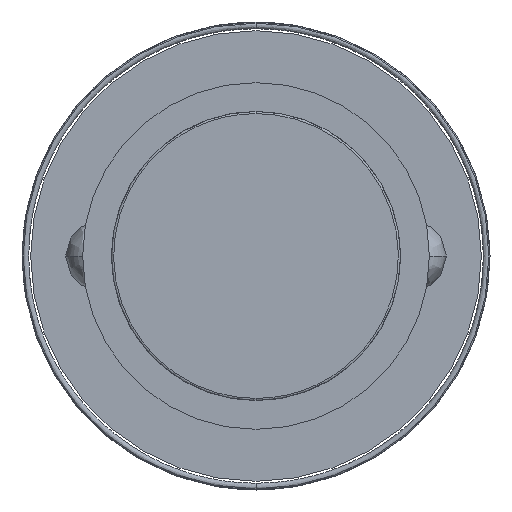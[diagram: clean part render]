
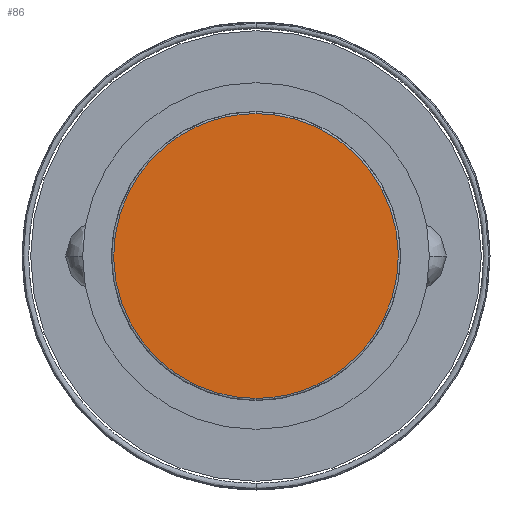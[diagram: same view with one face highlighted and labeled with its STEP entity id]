
A CAD part, front view. The second image highlights one B-rep face of the part: STEP entity #86.
In plain terms, the highlighted planar face has unit normal (0, -1, 0).
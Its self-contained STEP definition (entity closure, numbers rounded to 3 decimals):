
#18 = ORIENTED_EDGE ( 'NONE', *, *, #1232, .F. ) ;
#86 = ADVANCED_FACE ( 'N', ( #380 ), #1646, .F. ) ;
#131 = CARTESIAN_POINT ( 'NONE',  ( 246.4, 0., -123.2 ) ) ;
#329 = CARTESIAN_POINT ( 'NONE',  ( -123.2, 0., 0. ) ) ;
#380 = FACE_OUTER_BOUND ( 'NONE', #916, .T. ) ;
#466 = CARTESIAN_POINT ( 'NONE',  ( -246.4, 0., -123.2 ) ) ;
#818 = CARTESIAN_POINT ( 'NONE',  ( -246.4, 0., 123.2 ) ) ;
#838 = CARTESIAN_POINT ( 'NONE',  ( 0., 0., -123.2 ) ) ;
#863 = DIRECTION ( 'NONE',  ( 0., 1., 0. ) ) ;
#916 = EDGE_LOOP ( 'NONE', ( #1972, #18 ) ) ;
#1040 = AXIS2_PLACEMENT_3D ( 'NONE', #329, #863, #1578 ) ;
#1052 = VERTEX_POINT ( 'NONE', #1894 ) ;
#1088 =( BOUNDED_CURVE ( )  B_SPLINE_CURVE ( 3, ( #1734, #1749, #131, #1891 ),
 .UNSPECIFIED., .F., .T. ) 
 B_SPLINE_CURVE_WITH_KNOTS ( ( 4, 4 ),
 ( 0., 1. ),
 .UNSPECIFIED. ) 
 CURVE ( )  GEOMETRIC_REPRESENTATION_ITEM ( )  RATIONAL_B_SPLINE_CURVE ( ( 1., 0.333, 0.333, 1. ) ) 
 REPRESENTATION_ITEM ( '' )  );
#1206 = EDGE_CURVE ( 'NONE', #1052, #1874, #2187, .T. ) ;
#1232 = EDGE_CURVE ( 'NONE', #1874, #1052, #1088, .T. ) ;
#1554 = CARTESIAN_POINT ( 'NONE',  ( 0., 0., 123.2 ) ) ;
#1578 = DIRECTION ( 'NONE',  ( 0., 0., 1. ) ) ;
#1646 = PLANE ( 'NONE',  #1040 ) ;
#1734 = CARTESIAN_POINT ( 'NONE',  ( 0., 0., 123.2 ) ) ;
#1749 = CARTESIAN_POINT ( 'NONE',  ( 246.4, 0., 123.2 ) ) ;
#1874 = VERTEX_POINT ( 'NONE', #1982 ) ;
#1891 = CARTESIAN_POINT ( 'NONE',  ( 0., 0., -123.2 ) ) ;
#1894 = CARTESIAN_POINT ( 'NONE',  ( 0., 0., -123.2 ) ) ;
#1972 = ORIENTED_EDGE ( 'NONE', *, *, #1206, .F. ) ;
#1982 = CARTESIAN_POINT ( 'NONE',  ( 0., 0., 123.2 ) ) ;
#2187 =( BOUNDED_CURVE ( )  B_SPLINE_CURVE ( 3, ( #838, #466, #818, #1554 ),
 .UNSPECIFIED., .F., .T. ) 
 B_SPLINE_CURVE_WITH_KNOTS ( ( 4, 4 ),
 ( 0., 1. ),
 .UNSPECIFIED. ) 
 CURVE ( )  GEOMETRIC_REPRESENTATION_ITEM ( )  RATIONAL_B_SPLINE_CURVE ( ( 1., 0.333, 0.333, 1. ) ) 
 REPRESENTATION_ITEM ( '' )  );
